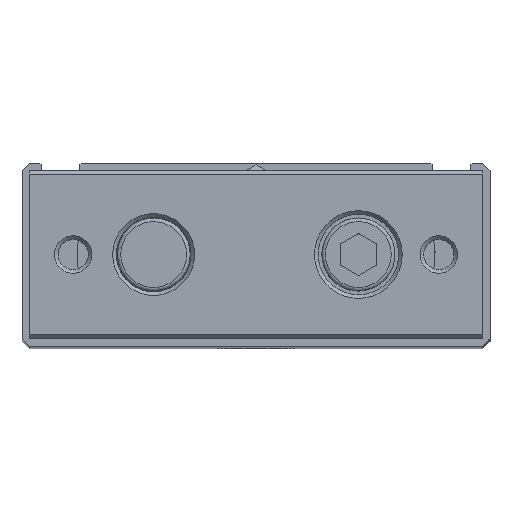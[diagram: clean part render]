
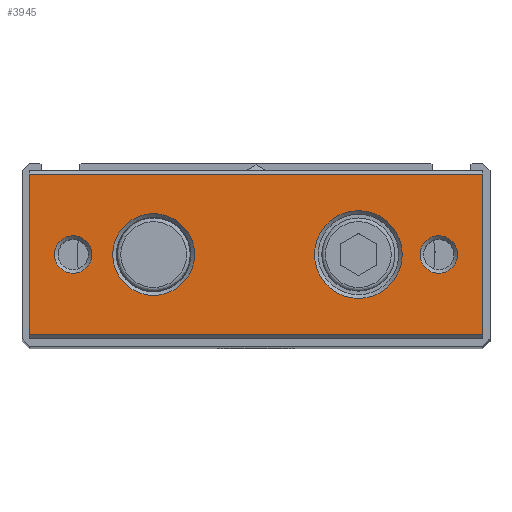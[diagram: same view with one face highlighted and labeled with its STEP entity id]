
A CAD part, top view. The second image highlights one B-rep face of the part: STEP entity #3945.
In plain terms, the highlighted planar face has unit normal (0, 0, 1).
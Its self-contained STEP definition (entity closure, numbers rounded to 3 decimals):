
#3393=CARTESIAN_POINT('',(-31.0,-11.,209.0));
#3394=VERTEX_POINT('',#3393);
#3401=CARTESIAN_POINT('',(-31.0,11.,209.0));
#3402=VERTEX_POINT('',#3401);
#3403=CARTESIAN_POINT('',(-31.0,11.,209.0));
#3404=DIRECTION('',(0.0,-1.0,0.0));
#3405=VECTOR('',#3404,22.);
#3406=LINE('',#3403,#3405);
#3407=EDGE_CURVE('',#3402,#3394,#3406,.T.);
#3521=CARTESIAN_POINT('',(31.0,-11.,209.0));
#3522=VERTEX_POINT('',#3521);
#3529=CARTESIAN_POINT('',(31.0,-11.,209.0));
#3530=DIRECTION('',(-1.0,0.0,0.0));
#3531=VECTOR('',#3530,62.0);
#3532=LINE('',#3529,#3531);
#3533=EDGE_CURVE('',#3522,#3394,#3532,.T.);
#3600=CARTESIAN_POINT('',(31.0,11.,209.0));
#3601=VERTEX_POINT('',#3600);
#3608=CARTESIAN_POINT('',(31.0,-11.,209.0));
#3609=DIRECTION('',(0.0,1.0,0.0));
#3610=VECTOR('',#3609,22.);
#3611=LINE('',#3608,#3610);
#3612=EDGE_CURVE('',#3522,#3601,#3611,.T.);
#3881=CARTESIAN_POINT('',(20.0,0.,209.0));
#3882=VERTEX_POINT('',#3881);
#3883=CARTESIAN_POINT('',(14.0,0.,209.0));
#3884=DIRECTION('',(0.0,0.0,1.0));
#3885=DIRECTION('',(-1.0,0.0,0.0));
#3886=AXIS2_PLACEMENT_3D('',#3883,#3884,#3885);
#3887=CIRCLE('',#3886,6.);
#3888=EDGE_CURVE('',#3882,#3882,#3887,.T.);
#3893=CARTESIAN_POINT('',(0.0,-11.5,209.0));
#3894=DIRECTION('',(0.0,0.0,1.0));
#3895=DIRECTION('',(1.0,0.0,0.0));
#3896=AXIS2_PLACEMENT_3D('',#3893,#3894,#3895);
#3897=PLANE('',#3896);
#3898=ORIENTED_EDGE('',*,*,#3533,.F.);
#3899=ORIENTED_EDGE('',*,*,#3612,.T.);
#3900=CARTESIAN_POINT('',(-31.0,11.,209.0));
#3901=DIRECTION('',(1.0,0.0,0.0));
#3902=VECTOR('',#3901,62.0);
#3903=LINE('',#3900,#3902);
#3904=EDGE_CURVE('',#3402,#3601,#3903,.T.);
#3905=ORIENTED_EDGE('',*,*,#3904,.F.);
#3906=ORIENTED_EDGE('',*,*,#3407,.T.);
#3907=EDGE_LOOP('',(#3898,#3899,#3905,#3906));
#3908=FACE_OUTER_BOUND('',#3907,.T.);
#3909=CARTESIAN_POINT('',(-8.4,0.,209.0));
#3910=VERTEX_POINT('',#3909);
#3911=CARTESIAN_POINT('',(-14.,0.,209.0));
#3912=DIRECTION('',(0.0,0.0,1.0));
#3913=DIRECTION('',(-1.0,0.0,0.0));
#3914=AXIS2_PLACEMENT_3D('',#3911,#3912,#3913);
#3915=CIRCLE('',#3914,5.6);
#3916=EDGE_CURVE('',#3910,#3910,#3915,.T.);
#3917=ORIENTED_EDGE('',*,*,#3916,.F.);
#3918=EDGE_LOOP('',(#3917));
#3919=FACE_BOUND('',#3918,.T.);
#3920=CARTESIAN_POINT('',(27.567,0.,209.0));
#3921=VERTEX_POINT('',#3920);
#3922=CARTESIAN_POINT('',(25.,0.,209.0));
#3923=DIRECTION('',(0.0,0.0,1.0));
#3924=DIRECTION('',(-1.0,0.0,0.0));
#3925=AXIS2_PLACEMENT_3D('',#3922,#3923,#3924);
#3926=CIRCLE('',#3925,2.567);
#3927=EDGE_CURVE('',#3921,#3921,#3926,.T.);
#3928=ORIENTED_EDGE('',*,*,#3927,.F.);
#3929=EDGE_LOOP('',(#3928));
#3930=FACE_BOUND('',#3929,.T.);
#3931=CARTESIAN_POINT('',(-22.433,0.,209.0));
#3932=VERTEX_POINT('',#3931);
#3933=CARTESIAN_POINT('',(-25.0,0.,209.0));
#3934=DIRECTION('',(0.0,0.0,1.0));
#3935=DIRECTION('',(-1.0,0.0,0.0));
#3936=AXIS2_PLACEMENT_3D('',#3933,#3934,#3935);
#3937=CIRCLE('',#3936,2.567);
#3938=EDGE_CURVE('',#3932,#3932,#3937,.T.);
#3939=ORIENTED_EDGE('',*,*,#3938,.F.);
#3940=EDGE_LOOP('',(#3939));
#3941=FACE_BOUND('',#3940,.T.);
#3942=ORIENTED_EDGE('',*,*,#3888,.F.);
#3943=EDGE_LOOP('',(#3942));
#3944=FACE_BOUND('',#3943,.T.);
#3945=ADVANCED_FACE('',(#3908,#3919,#3930,#3941,#3944),#3897,.T.);
